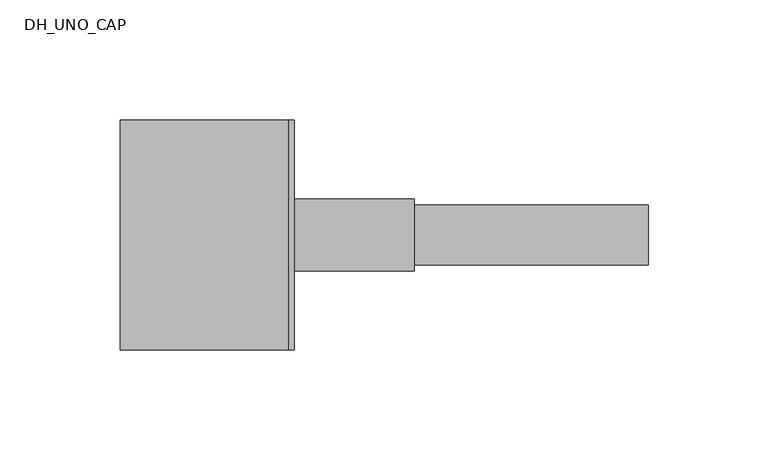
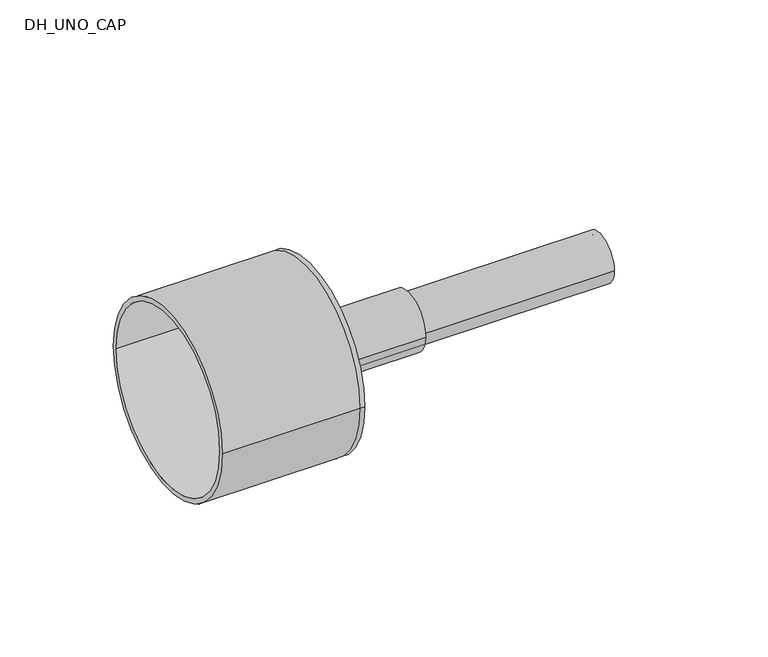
"""IFC4 building model written with IfcOpenShell, lengths in millimetres: pipe fitting geometry, DH_UNO_CAP : RAUTHERMEX UNO + 11 Heating - Rubber Cap."""

from ifc_helpers import new_model, si_unit, point, frame, origin, origin_2d, place, context, project, spatial, polyline, circle_curve, trimmed, segment, composite_curve, outline, extrude, source, transform, mapped, element, save
from ifc_brep_helpers import plane_surface, cylinder_surface, revolved_surface, advanced_brep


def dh_uno_cap_fe882160(model_context):
    return source(origin(), model_context, "Body", "SolidModel", [
        extrude(outline(composite_curve([segment(trimmed(circle_curve(origin_2d(), 12.5), [point((-12.5, 0.0))], [point((12.5, 0.0))], False, "CARTESIAN"), True, "CONTINUOUS"), segment(trimmed(circle_curve(origin_2d(), 12.5), [point((12.5, 0.0))], [point((-12.5, 0.0))], False, "CARTESIAN"), True, "CONTINUOUS")], self_intersect=False), holes=[composite_curve([segment(trimmed(circle_curve(origin_2d(), 10.2), [point((-10.2, 0.0))], [point((10.2, 0.0))], True, "CARTESIAN"), True, "CONTINUOUS"), segment(trimmed(circle_curve(origin_2d(), 10.2), [point((10.2, 0.0))], [point((-10.2, 0.0))], True, "CARTESIAN"), True, "CONTINUOUS")], self_intersect=False)]), frame((0.0, 0.0, 0.0), z_axis=(1.0, 0.0, 0.0), x_axis=(0.0, 1.0, 0.0)), (0.0, 0.0, 1.0), 150.0),
        advanced_brep(
        [(-70.0, -48.0, 0.0), (-70.0, 48.0, 0.0), (-70.0, -45.5, 0.0), (-70.0, 45.5, 0.0), (0.0, -45.5, 0.0), (0.0, 45.5, 0.0), (0.0, -48.0, 0.0), (0.0, 48.0, 0.0), (0.0, 12.5, 0.0), (0.0, -12.5, 0.0), (2.5, -48.0, 0.0), (2.5, 48.0, 0.0), (2.5, -12.5, 0.0), (2.5, 12.5, 0.0)],
        [
            (0, 1, circle_curve(frame((-70.0, 0.0, 0.0), z_axis=(-1.0, 0.0, 0.0), x_axis=(0.0, 1.0, 0.0)), 48.0)),
            (1, 0, circle_curve(frame((-70.0, 0.0, 0.0), z_axis=(-1.0, 0.0, 0.0), x_axis=(0.0, 1.0, 0.0)), 48.0)),
            (2, 3, circle_curve(frame((-70.0, 0.0, 0.0), z_axis=(1.0, 0.0, 0.0), x_axis=(0.0, 1.0, 0.0)), 45.5)),
            (3, 2, circle_curve(frame((-70.0, 0.0, 0.0), z_axis=(1.0, 0.0, 0.0), x_axis=(0.0, 1.0, 0.0)), 45.5)),
            (2, 4),
            (4, 5, circle_curve(frame((0.0, 0.0, 0.0), z_axis=(1.0, 0.0, 0.0), x_axis=(0.0, 1.0, 0.0)), 45.5)),
            (5, 3),
            (5, 4, circle_curve(frame((0.0, 0.0, 0.0), z_axis=(1.0, 0.0, 0.0), x_axis=(0.0, 1.0, 0.0)), 45.5)),
            (0, 6),
            (6, 7, circle_curve(frame((0.0, 0.0, 0.0), z_axis=(-1.0, 0.0, 0.0), x_axis=(0.0, 1.0, 0.0)), 48.0)),
            (7, 1),
            (7, 6, circle_curve(frame((0.0, 0.0, 0.0), z_axis=(-1.0, 0.0, 0.0), x_axis=(0.0, 1.0, 0.0)), 48.0)),
            (8, 9, circle_curve(frame((0.0, 0.0, 0.0), z_axis=(1.0, 0.0, 0.0), x_axis=(0.0, 1.0, 0.0)), 12.5)),
            (9, 8, circle_curve(frame((0.0, 0.0, 0.0), z_axis=(1.0, 0.0, 0.0), x_axis=(0.0, 1.0, 0.0)), 12.5)),
            (10, 11, circle_curve(frame((2.5, 0.0, 0.0), z_axis=(1.0, 0.0, 0.0), x_axis=(0.0, 1.0, 0.0)), 48.0)),
            (11, 10, circle_curve(frame((2.5, 0.0, 0.0), z_axis=(1.0, 0.0, 0.0), x_axis=(0.0, 1.0, 0.0)), 48.0)),
            (12, 13, circle_curve(frame((2.5, 0.0, 0.0), z_axis=(-1.0, 0.0, 0.0), x_axis=(0.0, 1.0, 0.0)), 12.5)),
            (13, 12, circle_curve(frame((2.5, 0.0, 0.0), z_axis=(-1.0, 0.0, 0.0), x_axis=(0.0, 1.0, 0.0)), 12.5)),
            (11, 7),
            (6, 10),
            (8, 13),
            (12, 9),
        ],
        [
            plane_surface(frame((-70.0, 0.0, 0.0), z_axis=(-1.0, 0.0, 0.0), x_axis=(0.0, 0.0, 1.0))),
            revolved_surface(polyline([(0.0, 45.5, 0.0), (-70.0, 45.5, 0.0)]), (-70.0, 0.0, 0.0), (1.0, 0.0, 0.0)),
            cylinder_surface(frame((-70.0, 0.0, 0.0), z_axis=(-1.0, 0.0, 0.0), x_axis=(0.0, 1.0, 0.0)), 48.0),
            plane_surface(frame((0.0, 0.0, 0.0), z_axis=(-1.0, 0.0, 0.0), x_axis=(0.0, 0.0, 1.0))),
            plane_surface(frame((2.5, 0.0, 0.0), z_axis=(1.0, 0.0, 0.0), x_axis=(0.0, 0.0, 1.0))),
            cylinder_surface(frame((0.0, 0.0, 0.0), z_axis=(-1.0, 0.0, 0.0), x_axis=(0.0, 1.0, 0.0)), 48.0),
            revolved_surface(polyline([(0.0, 12.5, 0.0), (2.5, 12.5, 0.0)]), (0.0, 0.0, 0.0), (-1.0, 0.0, 0.0)),
        ],
        [
            (0, [[1, 2], [3, 4]]),
            (1, [[-3, 5, 6, 7]]),
            (1, [[-4, -7, 8, -5]]),
            (2, [[-1, 9, 10, 11]]),
            (2, [[-2, -11, 12, -9]]),
            (3, [[-6, -8], [13, 14]]),
            (4, [[15, 16], [17, 18]]),
            (5, [[-16, 19, -10, 20]]),
            (5, [[-15, -20, -12, -19]]),
            (6, [[21, -17, 22, -13]]),
            (6, [[-21, -14, -22, -18]]),
        ],
    ),
        extrude(outline(composite_curve([segment(trimmed(circle_curve(origin_2d(), 15.0), [point((-15.0, 0.0))], [point((15.0, 0.0))], False, "CARTESIAN"), True, "CONTINUOUS"), segment(trimmed(circle_curve(origin_2d(), 15.0), [point((15.0, 0.0))], [point((-15.0, 0.0))], False, "CARTESIAN"), True, "CONTINUOUS")], self_intersect=False), holes=[composite_curve([segment(trimmed(circle_curve(origin_2d(), 12.5), [point((-12.5, 0.0))], [point((12.5, 0.0))], True, "CARTESIAN"), True, "CONTINUOUS"), segment(trimmed(circle_curve(origin_2d(), 12.5), [point((12.5, 0.0))], [point((-12.5, 0.0))], True, "CARTESIAN"), True, "CONTINUOUS")], self_intersect=False)]), frame((2.5, 0.0, 0.0), z_axis=(1.0, 0.0, 0.0), x_axis=(0.0, 1.0, 0.0)), (0.0, 0.0, 1.0), 50.0),
    ])


if __name__ == "__main__":
    model = new_model("IFC4")
    model_context = context("Model", 3, world=origin())
    ifc_project = project(units=[si_unit("LENGTHUNIT", "METRE", prefix="MILLI")], contexts=[model_context])
    site = spatial("IfcSite", under=ifc_project)
    building = spatial("IfcBuilding", under=site)
    placement = place(None, origin())
    dh_uno_cap_shape = dh_uno_cap_fe882160(model_context)
    element("IfcPipeFitting", 1, ObjectType="DH_UNO_CAP : RAUTHERMEX UNO + 11 Heating - Rubber Cap", at=placement, inside=building, context=model_context, shape_type="MappedRepresentation", body=[
        mapped(dh_uno_cap_shape, transform((0.0, 0.0, 0.0), x_axis=(1.0, 0.0, 0.0), y_axis=(0.0, 1.0, 0.0), z_axis=(0.0, 0.0, 1.0))),
    ])
    save(model, "model.ifc")
